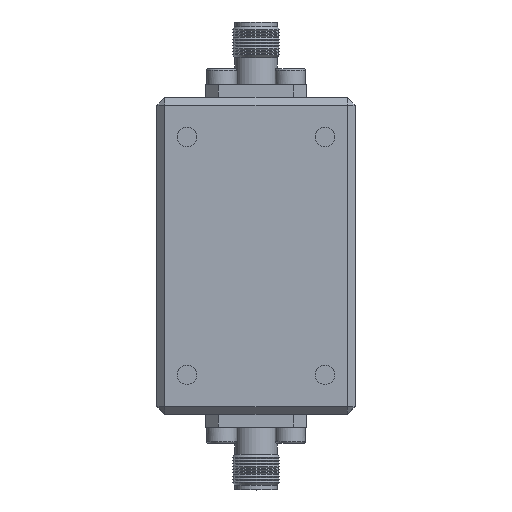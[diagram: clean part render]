
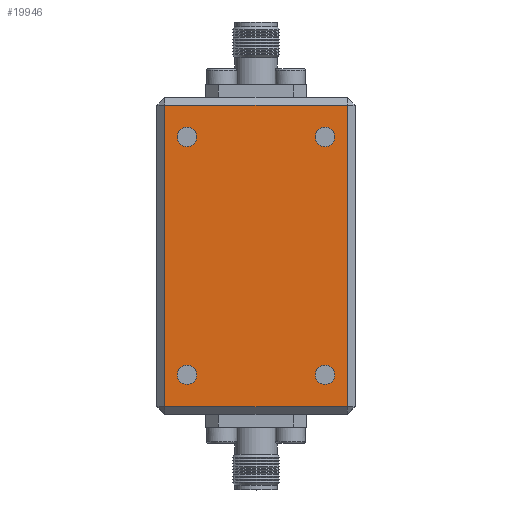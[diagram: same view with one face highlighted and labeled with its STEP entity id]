
A CAD part, top view. The second image highlights one B-rep face of the part: STEP entity #19946.
In plain terms, the highlighted planar face has unit normal (0, 0, 1).
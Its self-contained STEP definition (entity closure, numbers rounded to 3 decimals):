
#404=CIRCLE('',#20793,1.23);
#406=CIRCLE('',#20797,1.23);
#408=CIRCLE('',#20801,1.23);
#410=CIRCLE('',#20805,1.23);
#2674=ORIENTED_EDGE('',*,*,#5662,.T.);
#2675=ORIENTED_EDGE('',*,*,#5660,.T.);
#2676=ORIENTED_EDGE('',*,*,#5658,.T.);
#2677=ORIENTED_EDGE('',*,*,#5656,.T.);
#2678=ORIENTED_EDGE('',*,*,#4724,.T.);
#2679=ORIENTED_EDGE('',*,*,#4711,.T.);
#2680=ORIENTED_EDGE('',*,*,#4720,.T.);
#2681=ORIENTED_EDGE('',*,*,#4743,.T.);
#4711=EDGE_CURVE('',#6546,#6549,#7858,.T.);
#4720=EDGE_CURVE('',#6549,#6555,#7867,.T.);
#4724=EDGE_CURVE('',#6556,#6546,#7871,.T.);
#4743=EDGE_CURVE('',#6555,#6556,#7890,.T.);
#5656=EDGE_CURVE('',#7175,#7175,#404,.T.);
#5658=EDGE_CURVE('',#7177,#7177,#406,.T.);
#5660=EDGE_CURVE('',#7179,#7179,#408,.T.);
#5662=EDGE_CURVE('',#7181,#7181,#410,.T.);
#6546=VERTEX_POINT('',#25255);
#6549=VERTEX_POINT('',#25260);
#6555=VERTEX_POINT('',#25279);
#6556=VERTEX_POINT('',#25284);
#7175=VERTEX_POINT('',#29763);
#7177=VERTEX_POINT('',#29769);
#7179=VERTEX_POINT('',#29775);
#7181=VERTEX_POINT('',#29781);
#7858=LINE('',#25261,#9055);
#7867=LINE('',#25280,#9064);
#7871=LINE('',#25287,#9068);
#7890=LINE('',#25321,#9087);
#9055=VECTOR('',#21685,1000.);
#9064=VECTOR('',#21702,1000.);
#9068=VECTOR('',#21708,1000.);
#9087=VECTOR('',#21745,1000.);
#10659=EDGE_LOOP('',(#2674));
#10660=EDGE_LOOP('',(#2675));
#10661=EDGE_LOOP('',(#2676));
#10662=EDGE_LOOP('',(#2677));
#10663=EDGE_LOOP('',(#2678,#2679,#2680,#2681));
#11894=FACE_BOUND('',#10659,.T.);
#11895=FACE_BOUND('',#10660,.T.);
#11896=FACE_BOUND('',#10661,.T.);
#11897=FACE_BOUND('',#10662,.T.);
#11898=FACE_BOUND('',#10663,.T.);
#13026=PLANE('',#20808);
#19946=ADVANCED_FACE('',(#11894,#11895,#11896,#11897,#11898),#13026,.F.);
#20793=AXIS2_PLACEMENT_3D('',#29762,#23063,#23064);
#20797=AXIS2_PLACEMENT_3D('',#29768,#23071,#23072);
#20801=AXIS2_PLACEMENT_3D('',#29774,#23079,#23080);
#20805=AXIS2_PLACEMENT_3D('',#29780,#23087,#23088);
#20808=AXIS2_PLACEMENT_3D('',#29816,#23109,#23110);
#21685=DIRECTION('',(1.,0.,0.));
#21702=DIRECTION('',(0.,1.,0.));
#21708=DIRECTION('',(0.,-1.,0.));
#21745=DIRECTION('',(-1.,0.,0.));
#23063=DIRECTION('',(0.,0.,-1.));
#23064=DIRECTION('',(-1.,0.,0.));
#23071=DIRECTION('',(0.,0.,-1.));
#23072=DIRECTION('',(-1.,0.,0.));
#23079=DIRECTION('',(0.,0.,-1.));
#23080=DIRECTION('',(-1.,0.,0.));
#23087=DIRECTION('',(0.,0.,-1.));
#23088=DIRECTION('',(-1.,0.,0.));
#23109=DIRECTION('',(0.,0.,-1.));
#23110=DIRECTION('',(-1.,0.,0.));
#25255=CARTESIAN_POINT('',(-11.5,1.,12.5));
#25260=CARTESIAN_POINT('',(11.5,1.,12.5));
#25261=CARTESIAN_POINT('',(-12.5,1.,12.5));
#25279=CARTESIAN_POINT('',(11.5,39.,12.5));
#25280=CARTESIAN_POINT('',(11.5,40.,12.5));
#25284=CARTESIAN_POINT('',(-11.5,39.,12.5));
#25287=CARTESIAN_POINT('',(-11.5,40.,12.5));
#25321=CARTESIAN_POINT('',(-12.5,39.,12.5));
#29762=CARTESIAN_POINT('',(8.7,5.,12.5));
#29763=CARTESIAN_POINT('',(7.47,5.,12.5));
#29768=CARTESIAN_POINT('',(8.7,35.,12.5));
#29769=CARTESIAN_POINT('',(7.47,35.,12.5));
#29774=CARTESIAN_POINT('',(-8.7,35.,12.5));
#29775=CARTESIAN_POINT('',(-9.929,35.,12.5));
#29780=CARTESIAN_POINT('',(-8.7,5.,12.5));
#29781=CARTESIAN_POINT('',(-9.929,5.,12.5));
#29816=CARTESIAN_POINT('',(-12.5,40.,12.5));
